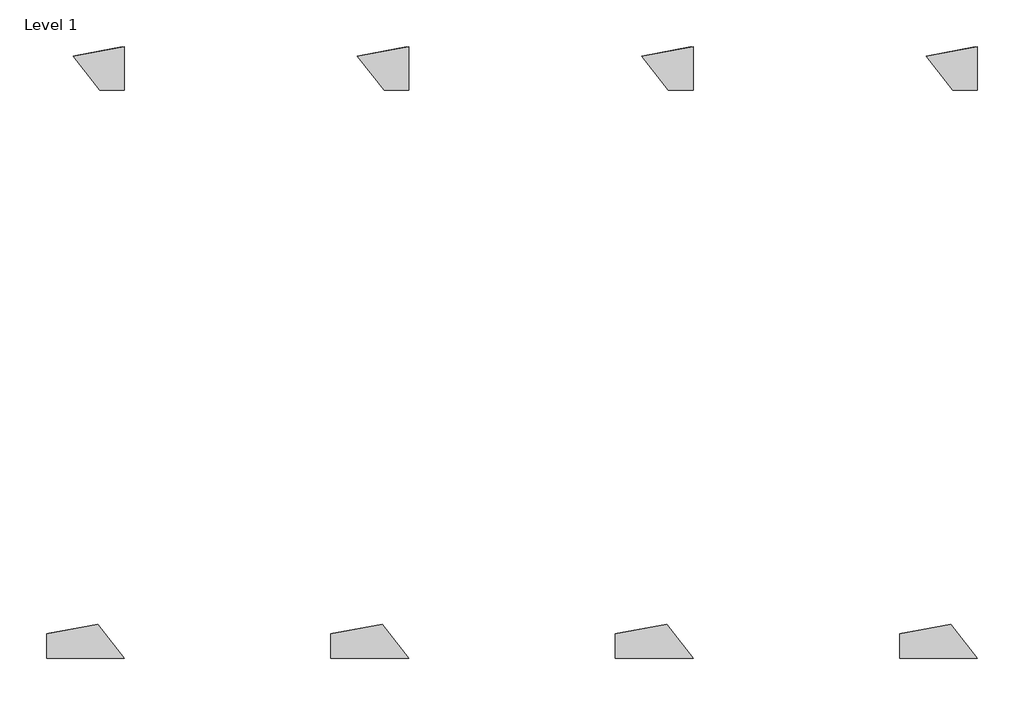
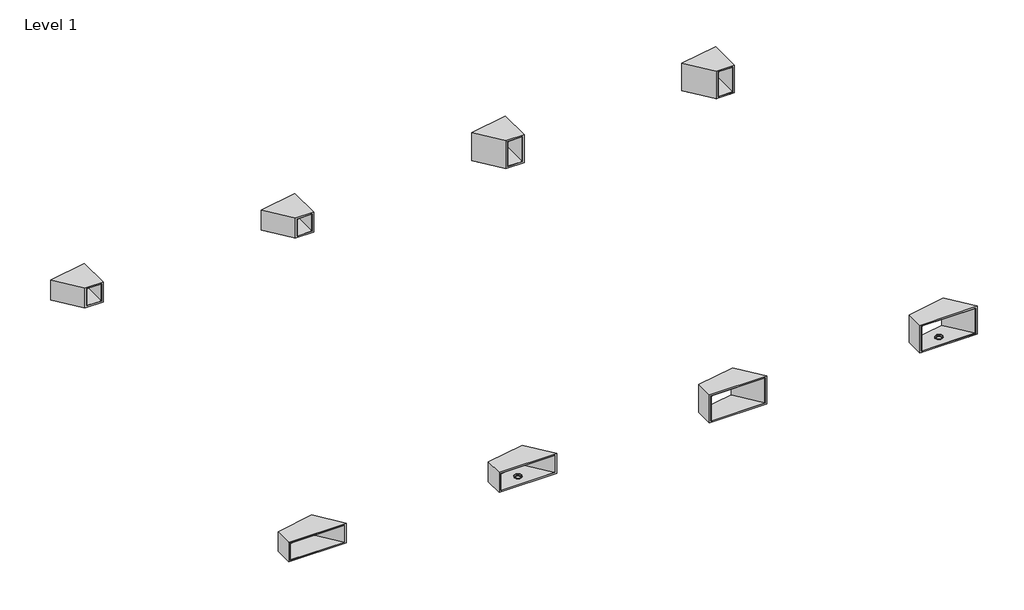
# One storey: 8 furniture elements.
"""IFC4 building model written with IfcOpenShell, lengths in millimetres."""

from ifc_helpers import new_model, si_unit, origin, place, context, project, spatial, transform, mapped, element, save
from components import furniture_3d79d3fe, furniture_856ebc5b, furniture_f5551eca, furniture_c7656f21, furniture_16h_ad41b52c, furniture_16h_4ca54182, furniture_22h_b340dc4a, furniture_22h_ecc0bf9d

model = new_model("IFC4")

# Units and contexts
model_context = context("Model", 3, world=origin())
ifc_project = project(units=[si_unit("LENGTHUNIT", "METRE", prefix="MILLI")], contexts=[model_context])

# Site, building, storey
site = spatial("IfcSite", under=ifc_project)
building = spatial("IfcBuilding", under=site)
storey = spatial("IfcBuildingStorey", under=building, Name="Level 1", Elevation=0.0)

# Furniture
placement = place(None, origin())
furniture_shape = furniture_3d79d3fe(model_context)
element("IfcFurniture", 1, ObjectType="Coalesse_AM_Table_Occasional_Sebastopol_Small : 22H - With Gromment", at=placement, inside=storey, context=model_context, shape_type="MappedRepresentation", body=[
    mapped(furniture_shape, transform((785289.3766429, 4702.5141232, 0.0), x_axis=(1.0, 0.0, 0.0), y_axis=(0.0, 1.0, 0.0), z_axis=(0.0, 0.0, 1.0))),
])
furniture_2_shape = furniture_856ebc5b(model_context)
element("IfcFurniture", 2, ObjectType="Coalesse_AM_Table_Occasional_Sebastopol_Small : 16H - With Gromment", at=placement, inside=storey, context=model_context, shape_type="MappedRepresentation", body=[
    mapped(furniture_2_shape, transform((777669.3766429, 4702.5141232, 0.0), x_axis=(1.0, 0.0, 0.0), y_axis=(0.0, 1.0, 0.0), z_axis=(0.0, 0.0, 1.0))),
])
furniture_3_shape = furniture_f5551eca(model_context)
element("IfcFurniture", 3, ObjectType="Coalesse_AM_Table_Occasional_Sebastopol_Large : 16H - With Gromment", at=placement, inside=storey, context=model_context, shape_type="MappedRepresentation", body=[
    mapped(furniture_3_shape, transform((777669.3766429, -3500.5713958, 0.0), x_axis=(1.0, 0.0, 0.0), y_axis=(0.0, 1.0, 0.0), z_axis=(0.0, 0.0, 1.0))),
])
furniture_4_shape = furniture_c7656f21(model_context)
element("IfcFurniture", 4, ObjectType="Coalesse_AM_Table_Occasional_Sebastopol_Large : 22H - With Gromment", at=placement, inside=storey, context=model_context, shape_type="MappedRepresentation", body=[
    mapped(furniture_4_shape, transform((785289.3766429, -3500.5713958, 0.0), x_axis=(1.0, 0.0, 0.0), y_axis=(0.0, 1.0, 0.0), z_axis=(0.0, 0.0, 1.0))),
])
furniture_16h_shape = furniture_16h_ad41b52c(model_context)
element("IfcFurniture", 5, ObjectType="Coalesse_AM_Table_Occasional_Sebastopol_Small : 16H", at=placement, inside=storey, context=model_context, shape_type="MappedRepresentation", body=[
    mapped(furniture_16h_shape, transform((773859.3766429, 4702.5141232, 0.0), x_axis=(1.0, 0.0, 0.0), y_axis=(0.0, 1.0, 0.0), z_axis=(0.0, 0.0, 1.0))),
])
furniture_16h_2_shape = furniture_16h_4ca54182(model_context)
element("IfcFurniture", 6, ObjectType="Coalesse_AM_Table_Occasional_Sebastopol_Large : 16H", at=placement, inside=storey, context=model_context, shape_type="MappedRepresentation", body=[
    mapped(furniture_16h_2_shape, transform((773859.3766429, -3500.5713958, 0.0), x_axis=(1.0, 0.0, 0.0), y_axis=(0.0, 1.0, 0.0), z_axis=(0.0, 0.0, 1.0))),
])
furniture_22h_shape = furniture_22h_b340dc4a(model_context)
element("IfcFurniture", 7, ObjectType="Coalesse_AM_Table_Occasional_Sebastopol_Small : 22H", at=placement, inside=storey, context=model_context, shape_type="MappedRepresentation", body=[
    mapped(furniture_22h_shape, transform((781479.3766429, 4702.5141232, 0.0), x_axis=(1.0, 0.0, 0.0), y_axis=(0.0, 1.0, 0.0), z_axis=(0.0, 0.0, 1.0))),
])
furniture_22h_2_shape = furniture_22h_ecc0bf9d(model_context)
element("IfcFurniture", 8, ObjectType="Coalesse_AM_Table_Occasional_Sebastopol_Large : 22H", at=placement, inside=storey, context=model_context, shape_type="MappedRepresentation", body=[
    mapped(furniture_22h_2_shape, transform((781479.3766429, -3500.5713958, 0.0), x_axis=(1.0, 0.0, 0.0), y_axis=(0.0, 1.0, 0.0), z_axis=(0.0, 0.0, 1.0))),
])

save(model, "model.ifc")
